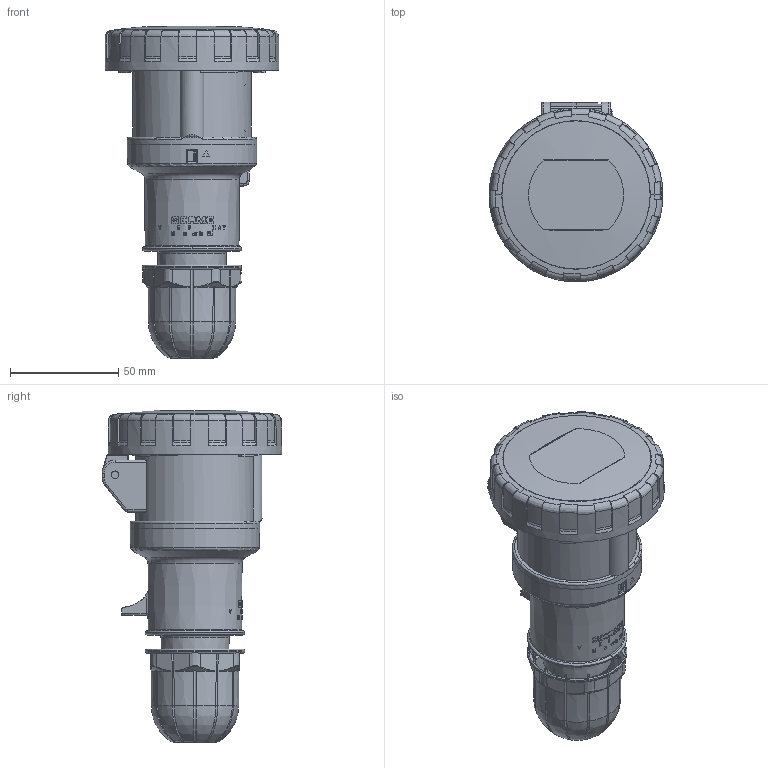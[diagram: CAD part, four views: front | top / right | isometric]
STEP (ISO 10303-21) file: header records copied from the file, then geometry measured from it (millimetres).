
FILE_DESCRIPTION(/* description */ (''),/* implementation_level */ '2;1');
FILE_NAME(/* name */ '4002129.stp',/* time_stamp */ '2017-05-08T22:06:37+02:00',/* author */ (''),/* organization */ (''),/* preprocessor_version */ 'ST-DEVELOPER v16',/* originating_system */ 'SIEMENS PLM Software NX 11.0',/* authorisation */ '');
FILE_SCHEMA (('AUTOMOTIVE_DESIGN { 1 0 10303 214 3 1 1 1 }'));
Length unit declared in the file: millimetre
Products named in the file (1): 4002129_LINKEDEXT_jt
Bounding box: 80.46 x 83.22 x 153.6 mm (x, y, z)
Surface area: 57061.2 mm2 (no closed solid volume)
Topology: 0 solids, 53 shells, 509 faces, 2049 edges, 1537 vertices
Faces by surface type: bspline 129, plane 127, cone 96, cylinder 83, torus 58, sphere 16
Full cylindrical faces by diameter (mm): 0.998 x4, 1 x12, 3.5 x1, 4 x1, 5.8 x1, 12 x1, 46 x2, 60 x1, 74 x1
Entity records: 53542 total; most frequent: CARTESIAN_POINT 34645, ORIENTED_EDGE 3040, DIRECTION 2687, EDGE_CURVE 1947, VERTEX_POINT 1500, AXIS2_PLACEMENT_3D 1079, B_SPLINE_CURVE_WITH_KNOTS 712, EDGE_LOOP 580
